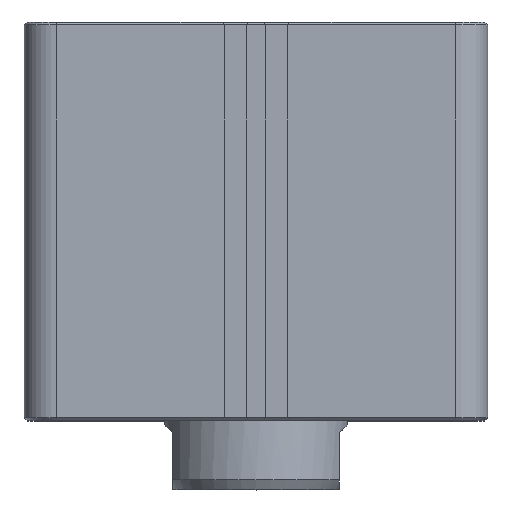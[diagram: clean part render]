
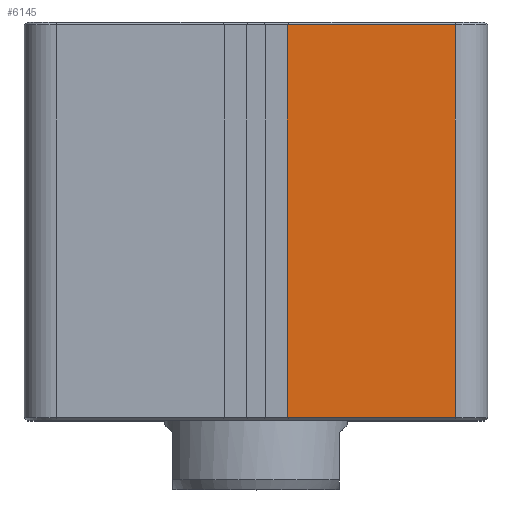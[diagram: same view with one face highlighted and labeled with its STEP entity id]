
A CAD part, top view. The second image highlights one B-rep face of the part: STEP entity #6145.
In plain terms, the highlighted planar face has unit normal (0, 0, 1).
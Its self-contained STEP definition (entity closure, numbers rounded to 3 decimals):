
#84=PLANE('',#6463);
#348=LINE('',#8959,#750);
#351=LINE('',#8965,#753);
#352=LINE('',#8968,#754);
#353=LINE('',#8969,#755);
#750=VECTOR('',#7060,1000.);
#753=VECTOR('',#7065,1000.);
#754=VECTOR('',#7066,1000.);
#755=VECTOR('',#7067,1000.);
#1587=ORIENTED_EDGE('',*,*,#2594,.F.);
#1588=ORIENTED_EDGE('',*,*,#2595,.T.);
#1589=ORIENTED_EDGE('',*,*,#2591,.T.);
#1590=ORIENTED_EDGE('',*,*,#2596,.T.);
#2591=EDGE_CURVE('',#3107,#3108,#348,.T.);
#2594=EDGE_CURVE('',#3109,#3110,#351,.T.);
#2595=EDGE_CURVE('',#3109,#3107,#352,.T.);
#2596=EDGE_CURVE('',#3108,#3110,#353,.T.);
#3107=VERTEX_POINT('',#8960);
#3108=VERTEX_POINT('',#8961);
#3109=VERTEX_POINT('',#8966);
#3110=VERTEX_POINT('',#8967);
#3489=EDGE_LOOP('',(#1587,#1588,#1589,#1590));
#3830=FACE_BOUND('',#3489,.T.);
#6145=ADVANCED_FACE('',(#3830),#84,.T.);
#6463=AXIS2_PLACEMENT_3D('',#8964,#7063,#7064);
#7060=DIRECTION('',(0.,-1.,0.));
#7063=DIRECTION('',(0.,0.,1.));
#7064=DIRECTION('',(1.,0.,0.));
#7065=DIRECTION('',(0.,-1.,0.));
#7066=DIRECTION('',(-1.,0.,0.));
#7067=DIRECTION('',(1.,0.,0.));
#8959=CARTESIAN_POINT('',(7.65,88.,57.));
#8960=CARTESIAN_POINT('',(7.65,97.3,57.));
#8961=CARTESIAN_POINT('',(7.65,0.7,57.));
#8964=CARTESIAN_POINT('',(49.,88.,57.));
#8965=CARTESIAN_POINT('',(49.,88.,57.));
#8966=CARTESIAN_POINT('',(49.,97.3,57.));
#8967=CARTESIAN_POINT('',(49.,0.7,57.));
#8968=CARTESIAN_POINT('',(49.,97.3,57.));
#8969=CARTESIAN_POINT('',(49.,0.7,57.));
